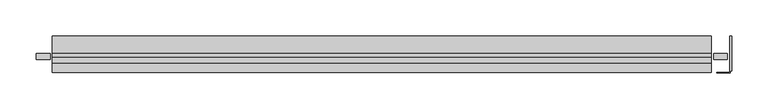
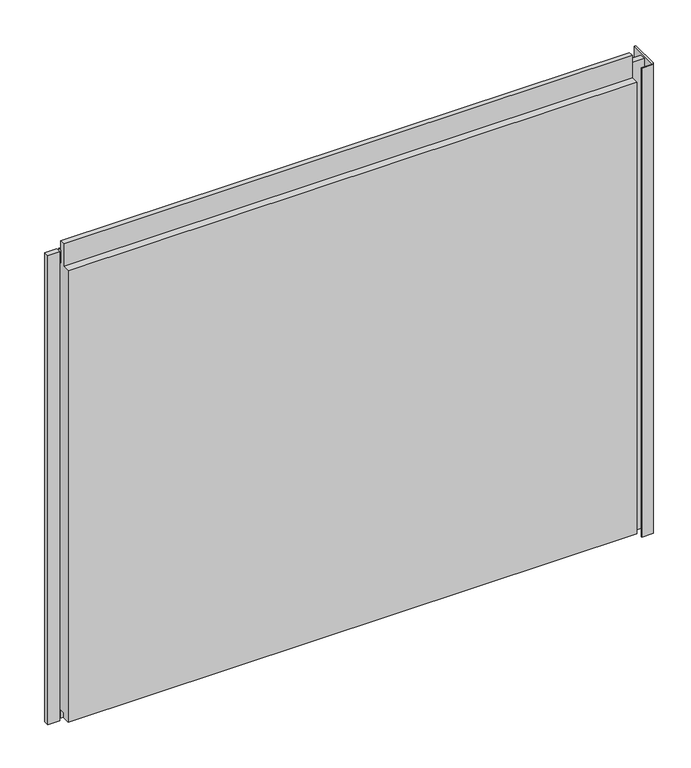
"""IFC4 building model written with IfcOpenShell, lengths in millimetres: plate geometry, Trimo_Qbiss Screen_Normal Panel-HORIZONTAL : HR - B."""

from ifc_helpers import new_model, si_unit, frame, origin, place, context, project, spatial, polyline, outline, extrude, source, transform, mapped, element, save


def plate_d049c8db(model_context):
    return source(origin(), model_context, "Body", "SweptSolid", [
        extrude(outline(polyline([(462.75, 145.0), (465.35, 145.0), (465.35, 97.0), (464.55, 97.0), (464.55, 144.2), (463.55, 144.2), (463.55, 94.2), (445.25, 94.2), (445.25, 95.0), (462.75, 95.0), (462.75, 145.0)])), frame((0.0, 0.0, -1.0), z_axis=(0.0, 0.0, 1.0), x_axis=(1.0, 0.0, 0.0)), (0.0, 0.0, 1.0), 787.95),
        extrude(outline(polyline([(-469.25, 121.5978162), (-469.25, 112.8978162), (-488.25, 112.8978162), (-488.25, 121.5978162), (-469.25, 121.5978162)])), frame((0.0, 0.0, -1.0), z_axis=(0.0, 0.0, 1.0), x_axis=(1.0, 0.0, 0.0)), (0.0, 0.0, 1.0), 787.95),
        extrude(outline(polyline([(440.75, 112.8978162), (440.75, 121.5978162), (459.75, 121.5978162), (459.75, 112.8978162), (440.75, 112.8978162)])), frame((0.0, 0.0, -1.0), z_axis=(0.0, 0.0, 1.0), x_axis=(1.0, 0.0, 0.0)), (0.0, 0.0, 1.0), 787.95),
        extrude(outline(polyline([(437.75, 121.0), (437.75, 116.0), (-466.25, 116.0), (-466.25, 121.0), (437.75, 121.0)])), frame((0.0, 0.0, 765.95), z_axis=(0.0, 0.0, 1.0), x_axis=(1.0, 0.0, 0.0)), (0.0, 0.0, 1.0), 21.0),
        extrude(outline(polyline([(116.0, 764.95), (145.0, 764.95), (145.0, 0.0), (117.0, 0.0), (117.0, 15.5), (107.0, 15.5), (107.0, 7.0), (95.0, 7.0), (95.0, 764.95), (108.0, 764.95), (108.0, 802.45), (116.0, 802.45), (116.0, 764.95)])), frame((-466.25, 0.0, 0.0), z_axis=(1.0, 0.0, 0.0), x_axis=(0.0, 1.0, 0.0)), (0.0, 0.0, 1.0), 904.0),
    ])


if __name__ == "__main__":
    model = new_model("IFC4")
    model_context = context("Model", 3, world=origin())
    ifc_project = project(units=[si_unit("LENGTHUNIT", "METRE", prefix="MILLI")], contexts=[model_context])
    site = spatial("IfcSite", under=ifc_project)
    building = spatial("IfcBuilding", under=site)
    placement = place(None, origin())
    plate_shape = plate_d049c8db(model_context)
    element("IfcPlate", 1, ObjectType="Trimo_Qbiss Screen_Normal Panel-HORIZONTAL : HR - B", at=placement, inside=building, context=model_context, shape_type="MappedRepresentation", body=[
        mapped(plate_shape, transform((0.0, 0.0, 0.0), x_axis=(1.0, 0.0, 0.0), y_axis=(0.0, 1.0, 0.0), z_axis=(0.0, 0.0, 1.0))),
    ])
    save(model, "model.ifc")
